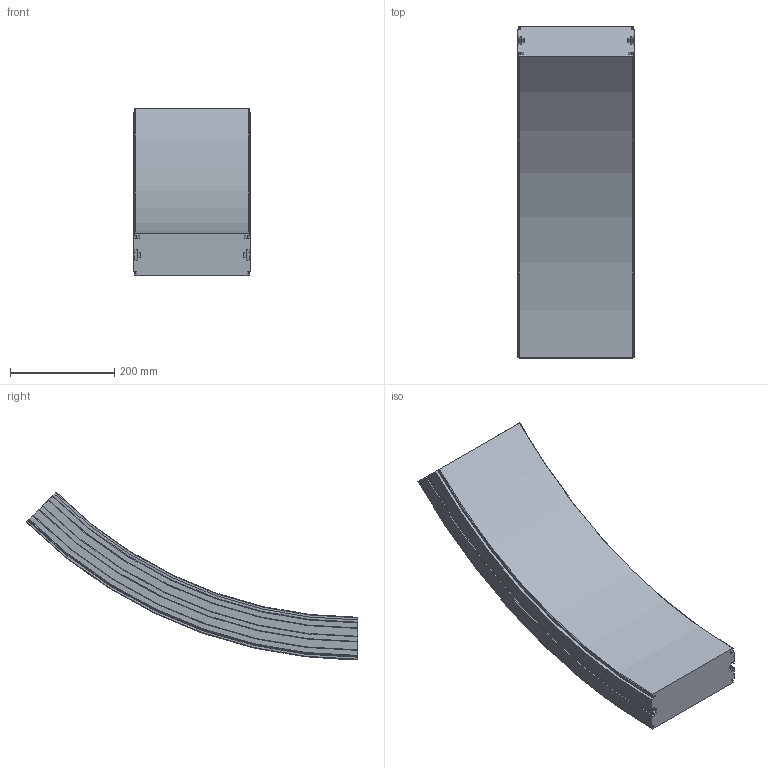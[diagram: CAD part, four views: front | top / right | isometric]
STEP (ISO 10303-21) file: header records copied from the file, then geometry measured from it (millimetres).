
FILE_DESCRIPTION(/* description */ ('VERTIKALKURVA S220 R860'),/* implementation_level */ '2;1');
FILE_NAME(/* name */ '\\carryline.intra\privat\users\mathias\Desktop\Tillfälliga filer\220-5695+220-2000-NER-01.stp',/* time_stamp */ '2018-11-29T14:45:16+01:00',/* author */ ('MD'),/* organization */ ('CARRYLINE'),/* preprocessor_version */ 'ST-DEVELOPER v17',/* originating_system */ 'Autodesk Inventor 2018',/* authorisation */ '');
FILE_SCHEMA (('AUTOMOTIVE_DESIGN { 1 0 10303 214 3 1 1 }'));
Length unit declared in the file: millimetre
Products named in the file (1): 220-5695+220-2000-NER-01
Bounding box: 224 x 636.04 x 321.09 mm (x, y, z)
Volume: 11936615.9 mm3; surface area: 543053.7 mm2
Topology: 1 solids, 1 shells, 113 faces, 318 edges, 212 vertices
Faces by surface type: plane 48, cylinder 31, bspline 14, cone 14, torus 6
Entity records: 8328 total; most frequent: CARTESIAN_POINT 5360, ORIENTED_EDGE 636, DIRECTION 576, EDGE_CURVE 318, VERTEX_POINT 212, AXIS2_PLACEMENT_3D 199, LINE 178, VECTOR 178
